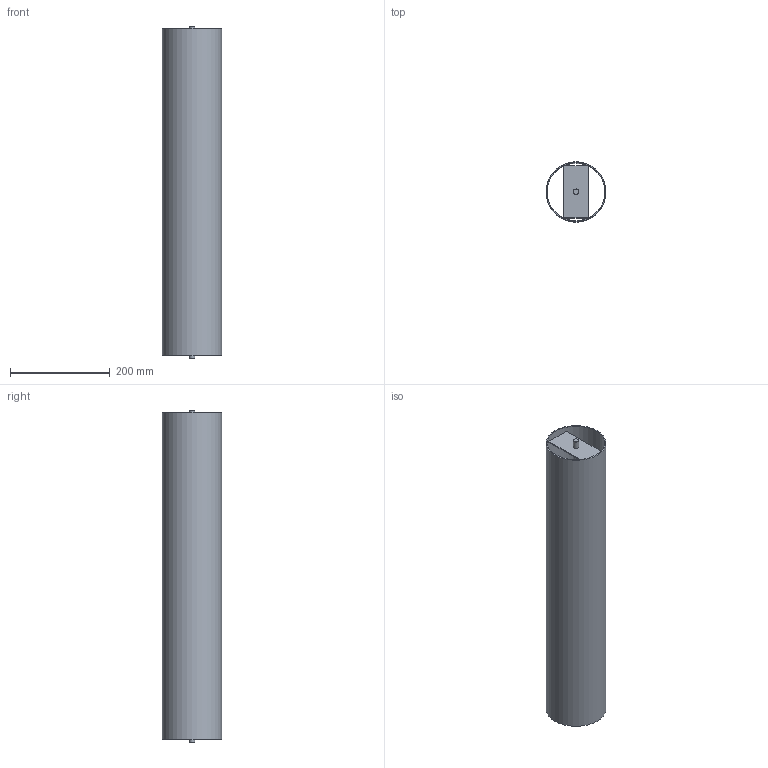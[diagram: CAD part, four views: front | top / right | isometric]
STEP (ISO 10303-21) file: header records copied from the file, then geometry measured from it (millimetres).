
FILE_DESCRIPTION( ( 'STEP AP214' ), '1' );
FILE_NAME( 'C:/Users/KOSH/Desktop/2021/Updated Delta/New folder/45836.stp', '2021-04-20T13:43:48', ( '' ), ( '' ), ' ', 'PARTsolutions', ' ' );
FILE_SCHEMA( ( 'AUTOMOTIVE_DESIGN { 1 0 10303 214 1 1 1 1 }' ) );
Length unit declared in the file: millimetre
Products named in the file (1): _45836
Bounding box: 120 x 120 x 666 mm (x, y, z)
Volume: 568737.9 mm3; surface area: 531232.2 mm2
Topology: 1 solids, 1 shells, 21 faces, 63 edges, 42 vertices
Faces by surface type: plane 16, cylinder 5
Full cylindrical faces by diameter (mm): 11 x3, 116 x1, 120 x1
Entity records: 914 total; most frequent: DIRECTION 128, CARTESIAN_POINT 122, ORIENTED_EDGE 116, EDGE_CURVE 58, AXIS2_PLACEMENT_3D 48, VERTEX_POINT 42, EDGE_LOOP 40, LINE 32
